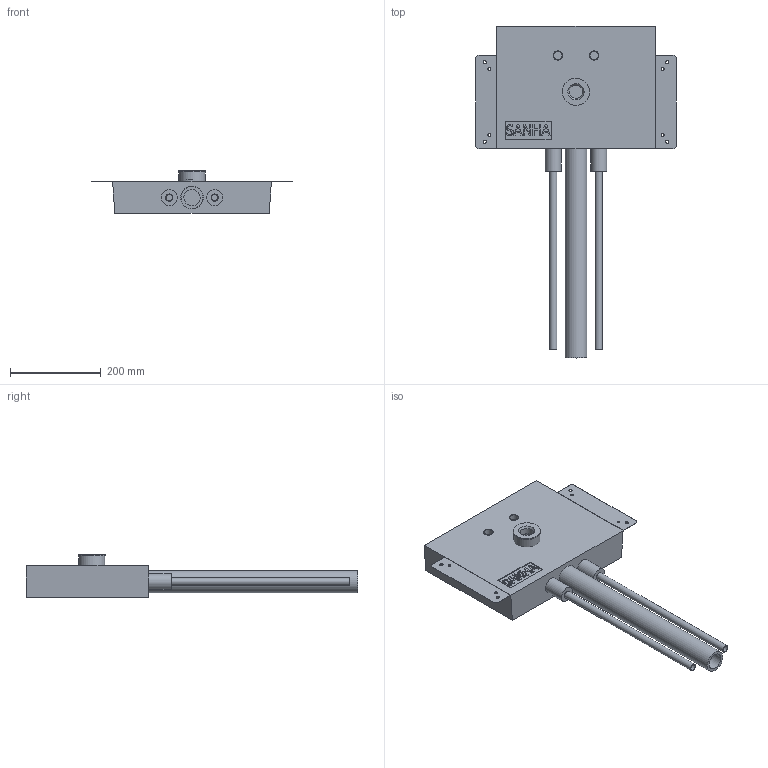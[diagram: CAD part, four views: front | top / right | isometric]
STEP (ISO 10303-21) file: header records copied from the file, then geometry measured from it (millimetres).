
FILE_DESCRIPTION(/* description */ (''),/* implementation_level */ '2;1');
FILE_NAME(/* name */ '\\LG50011\SANHA_Legnica\Engineering\Public\PROJEKTY\SANHA-BOX_Support_BiR\002-Rysunki_Boxów\25-WT-T\Zespół-25WT-T.stp',/* time_stamp */ '2018-11-05T14:34:51+01:00',/* author */ ('gomulka'),/* organization */ (''),/* preprocessor_version */ 'ST-DEVELOPER v16.13',/* originating_system */ 'Autodesk Inventor 2018',/* authorisation */ '');
FILE_SCHEMA (('AUTOMOTIVE_DESIGN { 1 0 10303 214 3 1 1 }'));
Length unit declared in the file: millimetre
Products named in the file (6): Zespół-25WT-T; 325WTT16; Rura_50; Rura_16x2; KSBMPDW1; Kolano_DN50-OD50_Master3
Assembly tree (7 placements, depth 2):
  Zespół-25WT-T
    325WTT16
    Rura_50
    Rura_16x2  x2
    KSBMPDW1  x2
    Kolano_DN50-OD50_Master3
Bounding box: 442 x 731.53 x 94.67 mm (x, y, z)
Volume: 7024959.1 mm3; surface area: 594009.1 mm2
Topology: 7 solids, 7 shells, 152 faces, 349 edges, 232 vertices
Faces by surface type: plane 103, cylinder 30, bspline 16, cone 3
Full cylindrical faces by diameter (mm): 6.1 x4, 7 x4, 14 x2, 16 x4, 18.631 x2, 21 x2, 30 x1, 35 x2, 35.993 x1, 48.5 x1, 50 x1, 52.269 x1, 54 x1, 55 x2, 58 x1, 60 x1
Entity records: 4064 total; most frequent: CARTESIAN_POINT 847, ORIENTED_EDGE 568, DIRECTION 568, EDGE_CURVE 284, VERTEX_POINT 206, LINE 202, VECTOR 202, EDGE_LOOP 198
